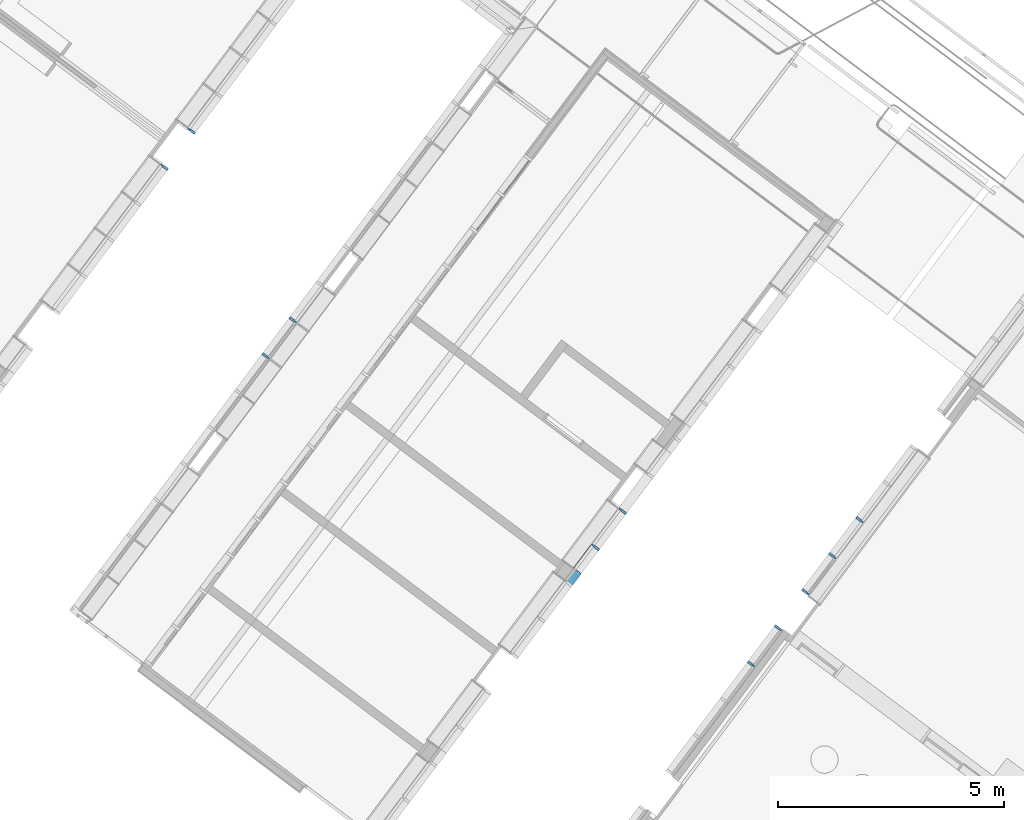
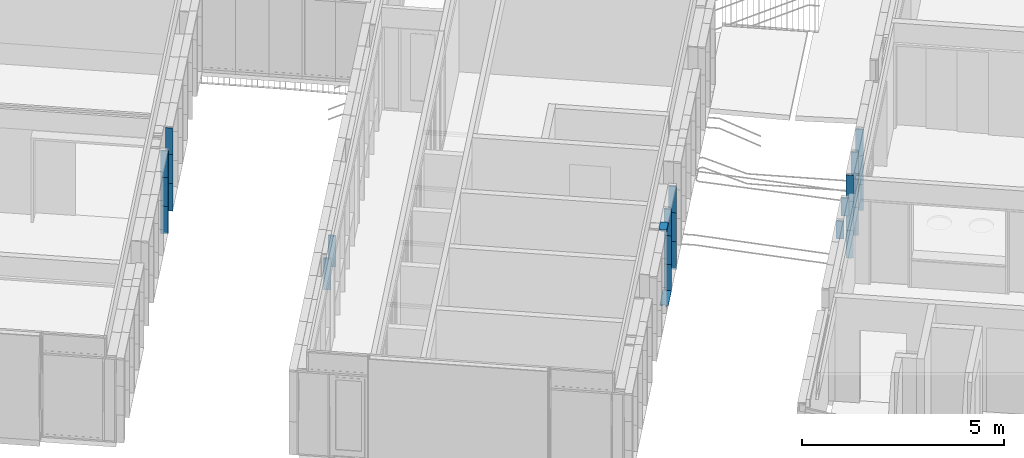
# One storey, part 86 of 243: 27 members, 5 elements without a shape of their own.
"""IFC2X3 building model written with IfcOpenShell, lengths in metres."""

from ifc_helpers import new_model, entity, si_unit, converted_unit, derived_unit, direction, frame, frame_2d, origin, place, context, subcontext, project, spatial, polyline, circle_curve, parameter, trimmed, segment, composite_curve, outline, extrude, source, transform, mapped, material, type_object, type_shapes, element, aggregate, save


model = new_model("IFC2X3")

# Units and contexts
model_context = context("Model", 3, precision=1e-05, world=origin(), true_north=direction((6.123031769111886e-17, 1.0)))
body_context = subcontext(model_context, "Body", "Model", "MODEL_VIEW")
ifc_project = project(units=[si_unit("LENGTHUNIT", "METRE"), si_unit("AREAUNIT", "SQUARE_METRE"), si_unit("VOLUMEUNIT", "CUBIC_METRE"), converted_unit("PLANEANGLEUNIT", "DEGREE", entity("IfcRatioMeasure", 0.017453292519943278), si_unit("PLANEANGLEUNIT", "RADIAN"), dimensions=[0, 0, 0, 0, 0, 0, 0]), si_unit("MASSUNIT", "GRAM", prefix="KILO"), derived_unit("MASSDENSITYUNIT", [(si_unit("MASSUNIT", "GRAM", prefix="KILO"), 1), (si_unit("LENGTHUNIT", "METRE"), -3)]), derived_unit("IONCONCENTRATIONUNIT", [(si_unit("MASSUNIT", "GRAM", prefix="KILO"), 1), (si_unit("LENGTHUNIT", "METRE"), -3)]), derived_unit("MOMENTOFINERTIAUNIT", [(si_unit("LENGTHUNIT", "METRE"), 4)]), si_unit("TIMEUNIT", "SECOND"), si_unit("FREQUENCYUNIT", "HERTZ"), si_unit("THERMODYNAMICTEMPERATUREUNIT", "DEGREE_CELSIUS"), derived_unit("THERMALTRANSMITTANCEUNIT", [(si_unit("MASSUNIT", "GRAM", prefix="KILO"), 1), (si_unit("THERMODYNAMICTEMPERATUREUNIT", "KELVIN"), -1), (si_unit("TIMEUNIT", "SECOND"), -3)]), derived_unit("THERMALCONDUCTANCEUNIT", [(si_unit("MASSUNIT", "GRAM", prefix="KILO"), 1), (si_unit("THERMODYNAMICTEMPERATUREUNIT", "KELVIN"), -1), (si_unit("TIMEUNIT", "SECOND"), -3), (si_unit("LENGTHUNIT", "METRE"), 1)]), derived_unit("VOLUMETRICFLOWRATEUNIT", [(si_unit("LENGTHUNIT", "METRE"), 3), (si_unit("TIMEUNIT", "SECOND"), -1)]), derived_unit("MASSFLOWRATEUNIT", [(si_unit("MASSUNIT", "GRAM", prefix="KILO"), 1), (si_unit("TIMEUNIT", "SECOND"), -1)]), derived_unit("ROTATIONALFREQUENCYUNIT", [(si_unit("TIMEUNIT", "SECOND"), -1)]), si_unit("ELECTRICCURRENTUNIT", "AMPERE"), si_unit("ELECTRICVOLTAGEUNIT", "VOLT"), si_unit("POWERUNIT", "WATT"), si_unit("FORCEUNIT", "NEWTON", prefix="KILO"), si_unit("ILLUMINANCEUNIT", "LUX"), si_unit("LUMINOUSFLUXUNIT", "LUMEN"), si_unit("LUMINOUSINTENSITYUNIT", "CANDELA"), derived_unit("USERDEFINED", [(si_unit("MASSUNIT", "GRAM", prefix="KILO"), -1), (si_unit("LENGTHUNIT", "METRE"), -2), (si_unit("TIMEUNIT", "SECOND"), 3), (si_unit("LUMINOUSFLUXUNIT", "LUMEN"), 1)]), derived_unit("USERDEFINED", [(si_unit("MASSUNIT", "GRAM", prefix="KILO"), 1), (si_unit("TIMEUNIT", "SECOND"), -3), (si_unit("LENGTHUNIT", "METRE"), 3), (si_unit("ELECTRICCURRENTUNIT", "AMPERE"), -2)]), derived_unit("SOUNDPOWERUNIT", [(si_unit("MASSUNIT", "GRAM", prefix="KILO"), 1), (si_unit("TIMEUNIT", "SECOND"), -3), (si_unit("LENGTHUNIT", "METRE"), 2)]), derived_unit("SOUNDPRESSUREUNIT", [(si_unit("MASSUNIT", "GRAM", prefix="KILO"), 1), (si_unit("LENGTHUNIT", "METRE"), -1), (si_unit("TIMEUNIT", "SECOND"), -2)]), derived_unit("LINEARVELOCITYUNIT", [(si_unit("LENGTHUNIT", "METRE"), 1), (si_unit("TIMEUNIT", "SECOND"), -1)]), si_unit("PRESSUREUNIT", "PASCAL"), derived_unit("USERDEFINED", [(si_unit("MASSUNIT", "GRAM", prefix="KILO"), 1), (si_unit("LENGTHUNIT", "METRE"), -2), (si_unit("TIMEUNIT", "SECOND"), -2)]), derived_unit("LINEARFORCEUNIT", [(si_unit("MASSUNIT", "GRAM", prefix="KILO"), 1), (si_unit("TIMEUNIT", "SECOND"), -2)]), derived_unit("PLANARFORCEUNIT", [(si_unit("MASSUNIT", "GRAM", prefix="KILO"), 1), (si_unit("LENGTHUNIT", "METRE"), -1), (si_unit("TIMEUNIT", "SECOND"), -2)]), derived_unit("SPECIFICHEATCAPACITYUNIT", [(si_unit("THERMODYNAMICTEMPERATUREUNIT", "KELVIN"), -1), (si_unit("LENGTHUNIT", "METRE"), 2), (si_unit("TIMEUNIT", "SECOND"), -2)]), derived_unit("HEATINGVALUEUNIT", [(si_unit("LENGTHUNIT", "METRE"), 2), (si_unit("TIMEUNIT", "SECOND"), -2)]), derived_unit("VAPORPERMEABILITYUNIT", [(si_unit("LENGTHUNIT", "METRE"), -1), (si_unit("TIMEUNIT", "SECOND"), 1)]), derived_unit("DYNAMICVISCOSITYUNIT", [(si_unit("MASSUNIT", "GRAM", prefix="KILO"), 1), (si_unit("TIMEUNIT", "SECOND"), -1), (si_unit("LENGTHUNIT", "METRE"), -1)]), derived_unit("THERMALEXPANSIONCOEFFICIENTUNIT", [(si_unit("THERMODYNAMICTEMPERATUREUNIT", "KELVIN"), -1)]), derived_unit("MODULUSOFELASTICITYUNIT", [(si_unit("MASSUNIT", "GRAM", prefix="KILO"), 1), (si_unit("LENGTHUNIT", "METRE"), -1), (si_unit("TIMEUNIT", "SECOND"), -2)]), derived_unit("ISOTHERMALMOISTURECAPACITYUNIT", [(si_unit("LENGTHUNIT", "METRE"), 3), (si_unit("MASSUNIT", "GRAM", prefix="KILO"), -1)]), derived_unit("MOISTUREDIFFUSIVITYUNIT", [(si_unit("TIMEUNIT", "SECOND"), -1), (si_unit("LENGTHUNIT", "METRE"), 2)])], contexts=[model_context])

# Site, building, storey
site_placement = place(None, frame((0.0, 0.0, 235.0), z_axis=(0.0, 0.0, 1.0), x_axis=(-0.7996477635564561, 0.6004693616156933, 0.0)))
site = spatial("IfcSite", under=ifc_project, at=site_placement, Name="Default", CompositionType="ELEMENT")
building_placement = place(site_placement, origin())
building = spatial("IfcBuilding", under=site, at=building_placement, CompositionType="ELEMENT")
storey_placement = place(building_placement, origin())
storey = spatial("IfcBuildingStorey", under=building, at=storey_placement, Name="P0- Escola", CompositionType="ELEMENT", Elevation=0.0)

# Curtain wall, members
curtain_wall_type_1 = type_object("IfcCurtainWallType", Name="Muro cortina:MC- EXT- MC2", PredefinedType="NOTDEFINED")
curtain_wall_1_placement = place(storey_placement, origin())
curtain_wall_1 = element("IfcCurtainWall", 1, at=curtain_wall_1_placement, inside=storey, type_object=curtain_wall_type_1, Name="Muro cortina:MC- EXT- MC2", ObjectType="Muro cortina:MC- EXT- MC2")
ifc_material = material(Name="_Alumini- T1- Perfil")
member_type_1 = type_object("IfcMemberType", Name="Montante rectangular:MC- Alu- 140x52,5 cm- Fa patis- Centre", PredefinedType="MULLION", material=ifc_material)
shared_shape_1 = source(origin(), body_context, "Body", "SweptSolid", [
    extrude(outline(polyline([(-0.11699999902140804, -0.026250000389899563), (0.021999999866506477, -0.026250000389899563), (0.021999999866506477, -0.01500000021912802), (0.07299999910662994, -0.01500000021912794), (0.07299999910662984, 0.015000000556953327), (0.02200000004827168, 0.015000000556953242), (0.02200000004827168, 0.026250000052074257), (-0.11699999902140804, 0.026250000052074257), (-0.11699999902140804, -0.026250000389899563)])), frame((0.0, 0.022999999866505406, -0.8400000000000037), z_axis=(0.0, 0.0, 1.0), x_axis=(0.0, -1.0, 0.0)), (0.0, 0.0, 1.0), 0.8400000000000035),
])
type_shapes(member_type_1, [shared_shape_1])
member_1_placement = place(curtain_wall_1_placement, frame((41.04514768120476, -29.415191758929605, -0.02), z_axis=(0.0, 0.0, -1.0), x_axis=(0.0, -1.0, 0.0)))
member_1 = element("IfcMember", 2, at=member_1_placement, type_object=member_type_1, material=ifc_material, Name="Montante rectangular:MC- Alu- 140x52,5 cm- Fa patis- Centre", ObjectType="Montante rectangular:MC- Alu- 140x52,5 cm- Fa patis- Centre", context=body_context, shape_type="MappedRepresentation", body=[
    mapped(shared_shape_1, transform((0.0, 0.0, 0.0), scale=1.0)),
])
member_2_placement = place(curtain_wall_1_placement, frame((41.04514768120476, -30.415191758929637, -0.02), z_axis=(0.0, 0.0, -1.0), x_axis=(0.0, -1.0, 0.0)))
member_2 = element("IfcMember", 3, at=member_2_placement, type_object=member_type_1, material=ifc_material, Name="Montante rectangular:MC- Alu- 140x52,5 cm- Fa patis- Centre", ObjectType="Montante rectangular:MC- Alu- 140x52,5 cm- Fa patis- Centre", context=body_context, shape_type="MappedRepresentation", body=[
    mapped(shared_shape_1, transform((0.0, 0.0, 0.0), scale=1.0)),
])

curtain_wall_2_placement = place(storey_placement, origin())
curtain_wall_2 = element("IfcCurtainWall", 4, at=curtain_wall_2_placement, inside=storey, type_object=curtain_wall_type_1, Name="Muro cortina:MC- EXT- MC2", ObjectType="Muro cortina:MC- EXT- MC2")
member_3_placement = place(curtain_wall_2_placement, frame((28.34514768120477, -29.415191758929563, -0.02), z_axis=(0.0, 0.0, -1.0), x_axis=(0.0, -1.0, 0.0)))
member_3 = element("IfcMember", 5, at=member_3_placement, type_object=member_type_1, material=ifc_material, Name="Montante rectangular:MC- Alu- 140x52,5 cm- Fa patis- Centre", ObjectType="Montante rectangular:MC- Alu- 140x52,5 cm- Fa patis- Centre", context=body_context, shape_type="MappedRepresentation", body=[
    mapped(shared_shape_1, transform((0.0, 0.0, 0.0), scale=1.0)),
])
member_type_2 = type_object("IfcMemberType", Name="Montante rectangular:MC- Alu- 140x52,5 cm- Fa patis- Centre", PredefinedType="MULLION", material=ifc_material)
shared_shape_2 = source(origin(), body_context, "Body", "SweptSolid", [
    extrude(outline(polyline([(-0.11699999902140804, -0.026250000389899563), (0.021999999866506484, -0.026250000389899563), (0.021999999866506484, -0.01500000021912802), (0.07299999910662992, -0.01500000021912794), (0.07299999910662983, 0.015000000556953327), (0.022000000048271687, 0.015000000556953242), (0.022000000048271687, 0.026250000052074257), (-0.11699999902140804, 0.026250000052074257), (-0.11699999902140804, -0.026250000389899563)])), frame((0.0, 0.022999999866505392, -0.7850000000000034), z_axis=(0.0, 0.0, 1.0), x_axis=(0.0, -1.0, 0.0)), (0.0, 0.0, 1.0), 0.7850000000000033),
])
type_shapes(member_type_2, [shared_shape_2])
member_4_placement = place(curtain_wall_2_placement, frame((28.34514768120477, -28.415191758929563, 0.035000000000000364), z_axis=(0.0, 0.0, -1.0), x_axis=(0.0, -1.0, 0.0)))
member_4 = element("IfcMember", 6, at=member_4_placement, type_object=member_type_2, material=ifc_material, Name="Montante rectangular:MC- Alu- 140x52,5 cm- Fa patis- Centre", ObjectType="Montante rectangular:MC- Alu- 140x52,5 cm- Fa patis- Centre", context=body_context, shape_type="MappedRepresentation", body=[
    mapped(shared_shape_2, transform((0.0, 0.0, 0.0), scale=1.0)),
])

# Member
member_type_3 = type_object("IfcMemberType", Name="Montante rectangular:MC- Alu- 140x52,5 cm- Fa patis- Centre", PredefinedType="MULLION", material=ifc_material)
shared_shape_3 = source(origin(), body_context, "Body", "SweptSolid", [
    extrude(outline(polyline([(-0.11699999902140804, -0.026250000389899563), (0.021999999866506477, -0.026250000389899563), (0.021999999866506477, -0.01500000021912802), (0.07299999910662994, -0.01500000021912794), (0.07299999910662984, 0.015000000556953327), (0.02200000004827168, 0.015000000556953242), (0.02200000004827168, 0.026250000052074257), (-0.11699999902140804, 0.026250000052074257), (-0.11699999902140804, -0.026250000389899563)])), frame((0.0, 0.022999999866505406, -0.8750000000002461), z_axis=(0.0, 0.0, 1.0), x_axis=(0.0, -1.0, 0.0)), (0.0, 0.0, 1.0), 0.8750000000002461),
])
type_shapes(member_type_3, [shared_shape_3])
member_5_placement = place(curtain_wall_1_placement, frame((41.04514768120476, -29.415191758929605, 0.8200000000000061), z_axis=(0.0, 0.0, -1.0), x_axis=(0.0, -1.0, 0.0)))
member_5 = element("IfcMember", 7, at=member_5_placement, type_object=member_type_3, material=ifc_material, Name="Montante rectangular:MC- Alu- 140x52,5 cm- Fa patis- Centre", ObjectType="Montante rectangular:MC- Alu- 140x52,5 cm- Fa patis- Centre", context=body_context, shape_type="MappedRepresentation", body=[
    mapped(shared_shape_3, transform((0.0, 0.0, 0.0), scale=1.0)),
])

member_6_placement = place(curtain_wall_1_placement, frame((41.04514768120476, -30.415191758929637, 0.8200000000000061), z_axis=(0.0, 0.0, -1.0), x_axis=(0.0, -1.0, 0.0)))
member_6 = element("IfcMember", 8, at=member_6_placement, type_object=member_type_3, material=ifc_material, Name="Montante rectangular:MC- Alu- 140x52,5 cm- Fa patis- Centre", ObjectType="Montante rectangular:MC- Alu- 140x52,5 cm- Fa patis- Centre", context=body_context, shape_type="MappedRepresentation", body=[
    mapped(shared_shape_3, transform((0.0, 0.0, 0.0), scale=1.0)),
])

member_7_placement = place(curtain_wall_2_placement, frame((28.34514768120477, -28.415191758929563, 0.8200000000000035), z_axis=(0.0, 0.0, -1.0), x_axis=(0.0, -1.0, 0.0)))
member_7 = element("IfcMember", 9, at=member_7_placement, type_object=member_type_3, material=ifc_material, Name="Montante rectangular:MC- Alu- 140x52,5 cm- Fa patis- Centre", ObjectType="Montante rectangular:MC- Alu- 140x52,5 cm- Fa patis- Centre", context=body_context, shape_type="MappedRepresentation", body=[
    mapped(shared_shape_3, transform((0.0, 0.0, 0.0), scale=1.0)),
])

member_8_placement = place(curtain_wall_2_placement, frame((28.34514768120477, -29.415191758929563, 0.8200000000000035), z_axis=(0.0, 0.0, -1.0), x_axis=(0.0, -1.0, 0.0)))
member_8 = element("IfcMember", 10, at=member_8_placement, type_object=member_type_3, material=ifc_material, Name="Montante rectangular:MC- Alu- 140x52,5 cm- Fa patis- Centre", ObjectType="Montante rectangular:MC- Alu- 140x52,5 cm- Fa patis- Centre", context=body_context, shape_type="MappedRepresentation", body=[
    mapped(shared_shape_3, transform((0.0, 0.0, 0.0), scale=1.0)),
])

member_type_4 = type_object("IfcMemberType", Name="Montante rectangular:MC- Alu- 140x52,5 cm- Fa patis- Centre", PredefinedType="MULLION", material=ifc_material)
shared_shape_4 = source(origin(), body_context, "Body", "SweptSolid", [
    extrude(outline(polyline([(-0.11699999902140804, -0.026250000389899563), (0.021999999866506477, -0.026250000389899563), (0.021999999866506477, -0.01500000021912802), (0.07299999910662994, -0.01500000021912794), (0.07299999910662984, 0.015000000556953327), (0.02200000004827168, 0.015000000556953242), (0.02200000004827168, 0.026250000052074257), (-0.11699999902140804, 0.026250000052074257), (-0.11699999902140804, -0.026250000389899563)])), frame((0.0, 0.022999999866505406, -0.79749999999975), z_axis=(0.0, 0.0, 1.0), x_axis=(0.0, -1.0, 0.0)), (0.0, 0.0, 1.0), 0.79749999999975),
])
type_shapes(member_type_4, [shared_shape_4])
member_9_placement = place(curtain_wall_1_placement, frame((41.04514768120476, -29.415191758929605, 1.6950000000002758), z_axis=(0.0, 0.0, -1.0), x_axis=(0.0, -1.0, 0.0)))
member_9 = element("IfcMember", 11, at=member_9_placement, type_object=member_type_4, material=ifc_material, Name="Montante rectangular:MC- Alu- 140x52,5 cm- Fa patis- Centre", ObjectType="Montante rectangular:MC- Alu- 140x52,5 cm- Fa patis- Centre", context=body_context, shape_type="MappedRepresentation", body=[
    mapped(shared_shape_4, transform((0.0, 0.0, 0.0), scale=1.0)),
])

member_10_placement = place(curtain_wall_1_placement, frame((41.04514768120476, -30.415191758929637, 1.6950000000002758), z_axis=(0.0, 0.0, -1.0), x_axis=(0.0, -1.0, 0.0)))
member_10 = element("IfcMember", 12, at=member_10_placement, type_object=member_type_4, material=ifc_material, Name="Montante rectangular:MC- Alu- 140x52,5 cm- Fa patis- Centre", ObjectType="Montante rectangular:MC- Alu- 140x52,5 cm- Fa patis- Centre", context=body_context, shape_type="MappedRepresentation", body=[
    mapped(shared_shape_4, transform((0.0, 0.0, 0.0), scale=1.0)),
])

aggregate(curtain_wall_1, [member_1, member_2, member_5, member_6, member_9, member_10])

member_11_placement = place(curtain_wall_2_placement, frame((28.34514768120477, -28.415191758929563, 1.6950000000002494), z_axis=(0.0, 0.0, -1.0), x_axis=(0.0, -1.0, 0.0)))
member_11 = element("IfcMember", 13, at=member_11_placement, type_object=member_type_4, material=ifc_material, Name="Montante rectangular:MC- Alu- 140x52,5 cm- Fa patis- Centre", ObjectType="Montante rectangular:MC- Alu- 140x52,5 cm- Fa patis- Centre", context=body_context, shape_type="MappedRepresentation", body=[
    mapped(shared_shape_4, transform((0.0, 0.0, 0.0), scale=1.0)),
])

member_12_placement = place(curtain_wall_2_placement, frame((28.34514768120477, -29.415191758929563, 1.6950000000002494), z_axis=(0.0, 0.0, -1.0), x_axis=(0.0, -1.0, 0.0)))
member_12 = element("IfcMember", 14, at=member_12_placement, type_object=member_type_4, material=ifc_material, Name="Montante rectangular:MC- Alu- 140x52,5 cm- Fa patis- Centre", ObjectType="Montante rectangular:MC- Alu- 140x52,5 cm- Fa patis- Centre", context=body_context, shape_type="MappedRepresentation", body=[
    mapped(shared_shape_4, transform((0.0, 0.0, 0.0), scale=1.0)),
])

# Curtain wall, members
curtain_wall_3_placement = place(storey_placement, origin())
curtain_wall_3 = element("IfcCurtainWall", 15, at=curtain_wall_3_placement, inside=storey, type_object=curtain_wall_type_1, Name="Muro cortina:MC- EXT- MC2", ObjectType="Muro cortina:MC- EXT- MC2")
member_type_5 = type_object("IfcMemberType", Name="Montante rectangular:MC- Alu- 140x52,5 cm- Fa patis- Centre", PredefinedType="MULLION", material=ifc_material)
shared_shape_5 = source(origin(), body_context, "Body", "SweptSolid", [
    extrude(outline(polyline([(-0.021999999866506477, -0.026250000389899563), (0.11699999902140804, -0.026250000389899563), (0.11699999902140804, 0.026250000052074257), (-0.02200000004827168, 0.026250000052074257), (-0.02200000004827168, 0.015000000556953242), (-0.07299999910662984, 0.015000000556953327), (-0.07299999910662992, -0.01500000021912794), (-0.021999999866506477, -0.01500000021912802), (-0.021999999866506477, -0.026250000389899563)])), frame((0.0, -0.022999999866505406, -0.8400000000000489), z_axis=(0.0, 0.0, 1.0), x_axis=(0.0, -1.0, 0.0)), (0.0, 0.0, 1.0), 0.8400000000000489),
])
type_shapes(member_type_5, [shared_shape_5])
member_13_placement = place(curtain_wall_3_placement, frame((23.94514768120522, -31.415191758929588, -0.02), z_axis=(0.0, 0.0, -1.0), x_axis=(0.0, -1.0, 0.0)))
member_13 = element("IfcMember", 16, at=member_13_placement, type_object=member_type_5, material=ifc_material, Name="Montante rectangular:MC- Alu- 140x52,5 cm- Fa patis- Centre", ObjectType="Montante rectangular:MC- Alu- 140x52,5 cm- Fa patis- Centre", context=body_context, shape_type="MappedRepresentation", body=[
    mapped(shared_shape_5, transform((0.0, 0.0, 0.0), scale=1.0)),
])
member_14_placement = place(curtain_wall_3_placement, frame((23.94514768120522, -30.415191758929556, -0.02), z_axis=(0.0, 0.0, -1.0), x_axis=(0.0, -1.0, 0.0)))
member_14 = element("IfcMember", 17, at=member_14_placement, type_object=member_type_5, material=ifc_material, Name="Montante rectangular:MC- Alu- 140x52,5 cm- Fa patis- Centre", ObjectType="Montante rectangular:MC- Alu- 140x52,5 cm- Fa patis- Centre", context=body_context, shape_type="MappedRepresentation", body=[
    mapped(shared_shape_5, transform((0.0, 0.0, 0.0), scale=1.0)),
])
member_type_6 = type_object("IfcMemberType", Name="Montante rectangular:MC- Alu- 140x52,5 cm- Fa patis- Centre", PredefinedType="MULLION", material=ifc_material)
shared_shape_6 = source(origin(), body_context, "Body", "SweptSolid", [
    extrude(outline(polyline([(-0.021999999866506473, -0.026250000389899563), (0.11699999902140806, -0.026250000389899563), (0.11699999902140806, 0.026250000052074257), (-0.022000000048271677, 0.026250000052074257), (-0.022000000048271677, 0.015000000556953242), (-0.07299999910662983, 0.015000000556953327), (-0.07299999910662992, -0.01500000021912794), (-0.021999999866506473, -0.01500000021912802), (-0.021999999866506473, -0.026250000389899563)])), frame((0.0, -0.022999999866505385, -0.7850000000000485), z_axis=(0.0, 0.0, 1.0), x_axis=(0.0, -1.0, 0.0)), (0.0, 0.0, 1.0), 0.7850000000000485),
])
type_shapes(member_type_6, [shared_shape_6])
member_15_placement = place(curtain_wall_3_placement, frame((23.945147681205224, -32.41519175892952, 0.035000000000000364), z_axis=(0.0, 0.0, -1.0), x_axis=(0.0, -1.0, 0.0)))
member_15 = element("IfcMember", 18, at=member_15_placement, type_object=member_type_6, material=ifc_material, Name="Montante rectangular:MC- Alu- 140x52,5 cm- Fa patis- Centre", ObjectType="Montante rectangular:MC- Alu- 140x52,5 cm- Fa patis- Centre", context=body_context, shape_type="MappedRepresentation", body=[
    mapped(shared_shape_6, transform((0.0, 0.0, 0.0), scale=1.0)),
])
member_type_7 = type_object("IfcMemberType", Name="Montante rectangular:MC- Alu- 140x52,5 cm- Fa patis- Centre", PredefinedType="MULLION", material=ifc_material)
shared_shape_7 = source(origin(), body_context, "Body", "SweptSolid", [
    extrude(outline(polyline([(-0.021999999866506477, -0.026250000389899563), (0.11699999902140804, -0.026250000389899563), (0.11699999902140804, 0.026250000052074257), (-0.02200000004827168, 0.026250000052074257), (-0.02200000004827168, 0.015000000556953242), (-0.07299999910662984, 0.015000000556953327), (-0.07299999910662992, -0.01500000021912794), (-0.021999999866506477, -0.01500000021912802), (-0.021999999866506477, -0.026250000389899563)])), frame((0.0, -0.022999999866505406, -0.8750000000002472), z_axis=(0.0, 0.0, 1.0), x_axis=(0.0, -1.0, 0.0)), (0.0, 0.0, 1.0), 0.8750000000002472),
])
type_shapes(member_type_7, [shared_shape_7])
member_16_placement = place(curtain_wall_3_placement, frame((23.94514768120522, -30.415191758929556, 0.8200000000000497), z_axis=(0.0, 0.0, -1.0), x_axis=(0.0, -1.0, 0.0)))
member_16 = element("IfcMember", 19, at=member_16_placement, type_object=member_type_7, material=ifc_material, Name="Montante rectangular:MC- Alu- 140x52,5 cm- Fa patis- Centre", ObjectType="Montante rectangular:MC- Alu- 140x52,5 cm- Fa patis- Centre", context=body_context, shape_type="MappedRepresentation", body=[
    mapped(shared_shape_7, transform((0.0, 0.0, 0.0), scale=1.0)),
])
member_17_placement = place(curtain_wall_3_placement, frame((23.94514768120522, -31.415191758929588, 0.8200000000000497), z_axis=(0.0, 0.0, -1.0), x_axis=(0.0, -1.0, 0.0)))
member_17 = element("IfcMember", 20, at=member_17_placement, type_object=member_type_7, material=ifc_material, Name="Montante rectangular:MC- Alu- 140x52,5 cm- Fa patis- Centre", ObjectType="Montante rectangular:MC- Alu- 140x52,5 cm- Fa patis- Centre", context=body_context, shape_type="MappedRepresentation", body=[
    mapped(shared_shape_7, transform((0.0, 0.0, 0.0), scale=1.0)),
])
member_18_placement = place(curtain_wall_3_placement, frame((23.945147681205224, -32.41519175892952, 0.8200000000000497), z_axis=(0.0, 0.0, -1.0), x_axis=(0.0, -1.0, 0.0)))
member_18 = element("IfcMember", 21, at=member_18_placement, type_object=member_type_7, material=ifc_material, Name="Montante rectangular:MC- Alu- 140x52,5 cm- Fa patis- Centre", ObjectType="Montante rectangular:MC- Alu- 140x52,5 cm- Fa patis- Centre", context=body_context, shape_type="MappedRepresentation", body=[
    mapped(shared_shape_7, transform((0.0, 0.0, 0.0), scale=1.0)),
])
member_type_8 = type_object("IfcMemberType", Name="Montante rectangular:MC- Alu- 140x52,5 cm- Fa patis- Centre", PredefinedType="MULLION", material=ifc_material)
shared_shape_8 = source(origin(), body_context, "Body", "SweptSolid", [
    extrude(outline(polyline([(-0.021999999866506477, -0.026250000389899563), (0.11699999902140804, -0.026250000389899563), (0.11699999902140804, 0.026250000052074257), (-0.02200000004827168, 0.026250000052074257), (-0.02200000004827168, 0.015000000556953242), (-0.07299999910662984, 0.015000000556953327), (-0.07299999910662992, -0.01500000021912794), (-0.021999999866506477, -0.01500000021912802), (-0.021999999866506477, -0.026250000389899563)])), frame((0.0, -0.022999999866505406, -0.7974999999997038), z_axis=(0.0, 0.0, 1.0), x_axis=(0.0, -1.0, 0.0)), (0.0, 0.0, 1.0), 0.7974999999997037),
])
type_shapes(member_type_8, [shared_shape_8])
member_19_placement = place(curtain_wall_3_placement, frame((23.94514768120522, -30.415191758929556, 1.6950000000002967), z_axis=(0.0, 0.0, -1.0), x_axis=(0.0, -1.0, 0.0)))
member_19 = element("IfcMember", 22, at=member_19_placement, type_object=member_type_8, material=ifc_material, Name="Montante rectangular:MC- Alu- 140x52,5 cm- Fa patis- Centre", ObjectType="Montante rectangular:MC- Alu- 140x52,5 cm- Fa patis- Centre", context=body_context, shape_type="MappedRepresentation", body=[
    mapped(shared_shape_8, transform((0.0, 0.0, 0.0), scale=1.0)),
])
member_20_placement = place(curtain_wall_3_placement, frame((23.94514768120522, -31.415191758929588, 1.6950000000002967), z_axis=(0.0, 0.0, -1.0), x_axis=(0.0, -1.0, 0.0)))
member_20 = element("IfcMember", 23, at=member_20_placement, type_object=member_type_8, material=ifc_material, Name="Montante rectangular:MC- Alu- 140x52,5 cm- Fa patis- Centre", ObjectType="Montante rectangular:MC- Alu- 140x52,5 cm- Fa patis- Centre", context=body_context, shape_type="MappedRepresentation", body=[
    mapped(shared_shape_8, transform((0.0, 0.0, 0.0), scale=1.0)),
])
member_21_placement = place(curtain_wall_3_placement, frame((23.945147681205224, -32.41519175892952, 1.6950000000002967), z_axis=(0.0, 0.0, -1.0), x_axis=(0.0, -1.0, 0.0)))
member_21 = element("IfcMember", 24, at=member_21_placement, type_object=member_type_8, material=ifc_material, Name="Montante rectangular:MC- Alu- 140x52,5 cm- Fa patis- Centre", ObjectType="Montante rectangular:MC- Alu- 140x52,5 cm- Fa patis- Centre", context=body_context, shape_type="MappedRepresentation", body=[
    mapped(shared_shape_8, transform((0.0, 0.0, 0.0), scale=1.0)),
])
aggregate(curtain_wall_3, [member_13, member_15, member_14, member_16, member_17, member_18, member_19, member_20, member_21])

# Member
member_type_9 = type_object("IfcMemberType", Name="Montante rectangular:MC- Alu- 140x52,5 cm- Fa patis- Superior", PredefinedType="MULLION", material=ifc_material)
shared_shape_9 = source(origin(), body_context, "Body", "SweptSolid", [
    extrude(outline(polyline([(-0.11366666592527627, -0.021249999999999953), (0.02633333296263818, -0.021249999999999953), (0.02633333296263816, -0.010000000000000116), (0.08733333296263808, -0.010000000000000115), (0.08733333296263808, 0.03125000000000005), (-0.11366666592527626, 0.031250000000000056), (-0.11366666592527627, -0.021249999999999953)])), frame((-0.031250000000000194, 0.027333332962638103, -0.34333333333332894), z_axis=(0.0, 0.0, 1.0), x_axis=(0.0, -1.0, 0.0)), (0.0, 0.0, 1.0), 0.34333333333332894),
])
type_shapes(member_type_9, [shared_shape_9])
member_22_placement = place(curtain_wall_2_placement, frame((28.34514768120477, -27.7585250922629, 2.545), z_axis=(0.0, -1.0, 0.0), x_axis=(0.0, 0.0, 1.0)))
member_22 = element("IfcMember", 25, at=member_22_placement, type_object=member_type_9, material=ifc_material, Name="Montante rectangular:MC- Alu- 140x52,5 cm- Fa patis- Superior", ObjectType="Montante rectangular:MC- Alu- 140x52,5 cm- Fa patis- Superior", context=body_context, shape_type="MappedRepresentation", body=[
    mapped(shared_shape_9, transform((0.0, 0.0, 0.0), scale=1.0)),
])

member_type_10 = type_object("IfcMemberType", Name="Montante rectangular:MC- Alu- 140x52,5 cm- Fa patis- inferior", PredefinedType="MULLION", material=ifc_material)
shared_shape_10 = source(origin(), body_context, "Body", "SweptSolid", [
    extrude(outline(composite_curve([segment(polyline([(0.1278672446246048, -0.02586710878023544), (0.14416724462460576, -0.025867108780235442)]), True, "CONTINUOUS"), segment(polyline([(0.14416724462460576, -0.025867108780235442), (0.1441672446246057, 0.00913289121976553)]), True, "CONTINUOUS"), segment(polyline([(0.1441672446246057, 0.00913289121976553), (0.06786724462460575, 0.009132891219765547)]), True, "CONTINUOUS"), segment(polyline([(0.06786724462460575, 0.009132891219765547), (0.06786724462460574, -0.021159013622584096)]), True, "CONTINUOUS"), segment(polyline([(0.06786724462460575, -0.02115901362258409), (-0.030132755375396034, -0.012332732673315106)]), True, "CONTINUOUS"), segment(polyline([(-0.03013275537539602, -0.012332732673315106), (-0.030132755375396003, 0.027132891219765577)]), True, "CONTINUOUS"), segment(polyline([(-0.030132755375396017, 0.027132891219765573), (-0.0021327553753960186, 0.027132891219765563)]), True, "CONTINUOUS"), segment(polyline([(-0.0021327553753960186, 0.027132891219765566), (-0.0021327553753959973, 0.029132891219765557)]), True, "CONTINUOUS"), segment(polyline([(-0.0021327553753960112, 0.029132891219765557), (-0.032132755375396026, 0.029132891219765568)]), True, "CONTINUOUS"), segment(polyline([(-0.032132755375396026, 0.029132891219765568), (-0.03213275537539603, -0.01215260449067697)]), True, "CONTINUOUS"), segment(polyline([(-0.03213275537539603, -0.01215260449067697), (-0.0701327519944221, -0.008730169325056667)]), True, "CONTINUOUS"), segment(polyline([(-0.0701327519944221, -0.00873016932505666), (-0.0701327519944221, 0.005766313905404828)]), True, "CONTINUOUS"), segment(trimmed(circle_curve(frame_2d((-0.0696327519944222, 0.0057663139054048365), x_axis=(-1.0, 0.0)), 0.0004999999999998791), [parameter(269.999999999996)], [parameter(0.0)], True, "PARAMETER"), False, "CONTINUOUS"), segment(polyline([(-0.0696327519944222, 0.006266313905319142), (-0.06213275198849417, 0.006266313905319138)]), True, "CONTINUOUS"), segment(polyline([(-0.06213275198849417, 0.006266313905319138), (-0.06213275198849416, 0.008266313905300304)]), True, "CONTINUOUS"), segment(polyline([(-0.06213275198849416, 0.008266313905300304), (-0.07013275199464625, 0.008266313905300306)]), True, "CONTINUOUS"), segment(trimmed(circle_curve(frame_2d((-0.07013275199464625, 0.006266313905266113), x_axis=(0.0, 1.0)), 0.0020000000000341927), [parameter(0.0)], [parameter(90.00000002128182)], True, "PARAMETER"), True, "CONTINUOUS"), segment(polyline([(-0.07213275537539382, 0.006266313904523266), (-0.07213275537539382, -0.008730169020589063)]), True, "CONTINUOUS"), segment(trimmed(circle_curve(frame_2d((-0.07013275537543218, -0.008730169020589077), x_axis=(-1.0, 0.0)), 0.0019999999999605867), [parameter(0.0)], [parameter(84.85359280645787)], True, "PARAMETER"), True, "CONTINUOUS"), segment(polyline([(-0.07031215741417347, -0.010722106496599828), (0.06786724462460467, -0.023167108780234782)]), True, "CONTINUOUS"), segment(polyline([(0.06786724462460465, -0.023167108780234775), (0.12786724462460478, -0.023167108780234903)]), True, "CONTINUOUS"), segment(polyline([(0.12786724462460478, -0.023167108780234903), (0.1278672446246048, -0.02586710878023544)]), True, "CONTINUOUS")], self_intersect=False)), frame((-0.02913289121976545, 0.06786724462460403, -0.6566666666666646), z_axis=(0.0, 0.0, 1.0), x_axis=(0.0, -1.0, 0.0)), (0.0, 0.0, 1.0), 0.6566666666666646),
])
type_shapes(member_type_10, [shared_shape_10])
member_23_placement = place(curtain_wall_2_placement, frame((28.34514768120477, -27.7585250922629, -0.02), z_axis=(0.0, 1.0, 0.0), x_axis=(0.0, 0.0, -1.0)))
member_23 = element("IfcMember", 26, at=member_23_placement, type_object=member_type_10, material=ifc_material, Name="Montante rectangular:MC- Alu- 140x52,5 cm- Fa patis- inferior", ObjectType="Montante rectangular:MC- Alu- 140x52,5 cm- Fa patis- inferior", context=body_context, shape_type="MappedRepresentation", body=[
    mapped(shared_shape_10, transform((0.0, 0.0, 0.0), scale=1.0)),
])

aggregate(curtain_wall_2, [member_4, member_3, member_22, member_23, member_7, member_8, member_11, member_12])

# Curtain wall, members
curtain_wall_4_placement = place(storey_placement, origin())
curtain_wall_4 = element("IfcCurtainWall", 27, at=curtain_wall_4_placement, inside=storey, type_object=curtain_wall_type_1, Name="Muro cortina:MC- EXT- MC2", ObjectType="Muro cortina:MC- EXT- MC2")
member_type_11 = type_object("IfcMemberType", Name="Montante rectangular:MC- Alu- 140x52,5 cm- Fa patis- Centre", PredefinedType="MULLION", material=ifc_material)
shared_shape_11 = source(origin(), body_context, "Body", "SweptSolid", [
    extrude(outline(polyline([(-0.021999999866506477, -0.026250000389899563), (0.11699999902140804, -0.026250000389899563), (0.11699999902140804, 0.026250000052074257), (-0.02200000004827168, 0.026250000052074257), (-0.02200000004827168, 0.015000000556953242), (-0.07299999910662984, 0.015000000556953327), (-0.07299999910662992, -0.01500000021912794), (-0.021999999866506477, -0.01500000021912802), (-0.021999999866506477, -0.026250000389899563)])), frame((0.0, -0.022999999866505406, -0.5375000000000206), z_axis=(0.0, 0.0, 1.0), x_axis=(0.0, -1.0, 0.0)), (0.0, 0.0, 1.0), 0.5375000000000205),
])
type_shapes(member_type_11, [shared_shape_11])
member_24_placement = place(curtain_wall_4_placement, frame((23.945147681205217, -28.415191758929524, 1.9549999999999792), z_axis=(0.0, 0.0, -1.0), x_axis=(0.0, -1.0, 0.0)))
member_24 = element("IfcMember", 28, at=member_24_placement, type_object=member_type_11, material=ifc_material, Name="Montante rectangular:MC- Alu- 140x52,5 cm- Fa patis- Centre", ObjectType="Montante rectangular:MC- Alu- 140x52,5 cm- Fa patis- Centre", context=body_context, shape_type="MappedRepresentation", body=[
    mapped(shared_shape_11, transform((0.0, 0.0, 0.0), scale=1.0)),
])
member_type_12 = type_object("IfcMemberType", Name="Montante rectangular:MC- Alu- 140x52,5 cm- Fa patis- Centre", PredefinedType="MULLION", material=ifc_material)
shared_shape_12 = source(origin(), body_context, "Body", "SweptSolid", [
    extrude(outline(polyline([(-0.021999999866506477, -0.026250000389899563), (0.11699999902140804, -0.026250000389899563), (0.11699999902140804, 0.026250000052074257), (-0.02200000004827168, 0.026250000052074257), (-0.02200000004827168, 0.015000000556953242), (-0.07299999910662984, 0.015000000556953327), (-0.07299999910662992, -0.015000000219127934), (-0.021999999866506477, -0.015000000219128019), (-0.021999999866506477, -0.026250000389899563)])), frame((-0.026250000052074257, -0.022999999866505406, -0.5375000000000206), z_axis=(0.0, 0.0, 1.0), x_axis=(0.0, -1.0, 0.0)), (0.0, 0.0, 1.0), 0.5375000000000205),
])
type_shapes(member_type_12, [shared_shape_12])
member_25_placement = place(curtain_wall_4_placement, frame((23.945147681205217, -29.44144175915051, 1.9549999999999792), z_axis=(0.0, 0.0, -1.0), x_axis=(0.0, -1.0, 0.0)))
member_25 = element("IfcMember", 29, at=member_25_placement, type_object=member_type_12, material=ifc_material, Name="Montante rectangular:MC- Alu- 140x52,5 cm- Fa patis- Centre", ObjectType="Montante rectangular:MC- Alu- 140x52,5 cm- Fa patis- Centre", context=body_context, shape_type="MappedRepresentation", body=[
    mapped(shared_shape_12, transform((0.0, 0.0, 0.0), scale=1.0)),
])
aggregate(curtain_wall_4, [member_24, member_25])

curtain_wall_type_2 = type_object("IfcCurtainWallType", Name="Muro cortina:MC- EXT- MC5", PredefinedType="NOTDEFINED")
curtain_wall_5_placement = place(storey_placement, origin())
curtain_wall_5 = element("IfcCurtainWall", 30, at=curtain_wall_5_placement, inside=storey, type_object=curtain_wall_type_2, Name="Muro cortina:MC- EXT- MC5", ObjectType="Muro cortina:MC- EXT- MC5")
member_type_13 = type_object("IfcMemberType", Name="Montante rectangular:MC- Alu- 140x52,5 cm- Fa patis- Centre", PredefinedType="MULLION", material=ifc_material)
shared_shape_13 = source(origin(), body_context, "Body", "SweptSolid", [
    extrude(outline(polyline([(-0.021999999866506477, -0.026250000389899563), (0.11699999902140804, -0.026250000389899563), (0.11699999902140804, 0.026250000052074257), (-0.02200000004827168, 0.026250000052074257), (-0.02200000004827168, 0.015000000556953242), (-0.07299999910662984, 0.015000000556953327), (-0.07299999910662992, -0.01500000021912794), (-0.021999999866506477, -0.01500000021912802), (-0.021999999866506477, -0.026250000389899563)])), frame((0.0, -0.022999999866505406, -0.9449999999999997), z_axis=(0.0, 0.0, 1.0), x_axis=(0.0, -1.0, 0.0)), (0.0, 0.0, 1.0), 0.9449999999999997),
])
type_shapes(member_type_13, [shared_shape_13])
member_26_placement = place(curtain_wall_5_placement, frame((36.645147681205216, -27.41519175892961, 0.035000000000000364), z_axis=(0.0, 0.0, -1.0), x_axis=(0.0, -1.0, 0.0)))
member_26 = element("IfcMember", 31, at=member_26_placement, type_object=member_type_13, material=ifc_material, Name="Montante rectangular:MC- Alu- 140x52,5 cm- Fa patis- Centre", ObjectType="Montante rectangular:MC- Alu- 140x52,5 cm- Fa patis- Centre", context=body_context, shape_type="MappedRepresentation", body=[
    mapped(shared_shape_13, transform((0.0, 0.0, 0.0), scale=1.0)),
])
member_27_placement = place(curtain_wall_5_placement, frame((36.645147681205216, -28.415191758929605, 0.035000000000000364), z_axis=(0.0, 0.0, -1.0), x_axis=(0.0, -1.0, 0.0)))
member_27 = element("IfcMember", 32, at=member_27_placement, type_object=member_type_13, material=ifc_material, Name="Montante rectangular:MC- Alu- 140x52,5 cm- Fa patis- Centre", ObjectType="Montante rectangular:MC- Alu- 140x52,5 cm- Fa patis- Centre", context=body_context, shape_type="MappedRepresentation", body=[
    mapped(shared_shape_13, transform((0.0, 0.0, 0.0), scale=1.0)),
])
aggregate(curtain_wall_5, [member_26, member_27])

save(model, "model.ifc")
